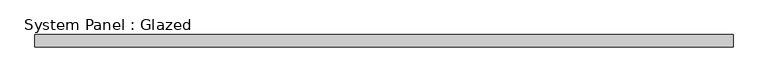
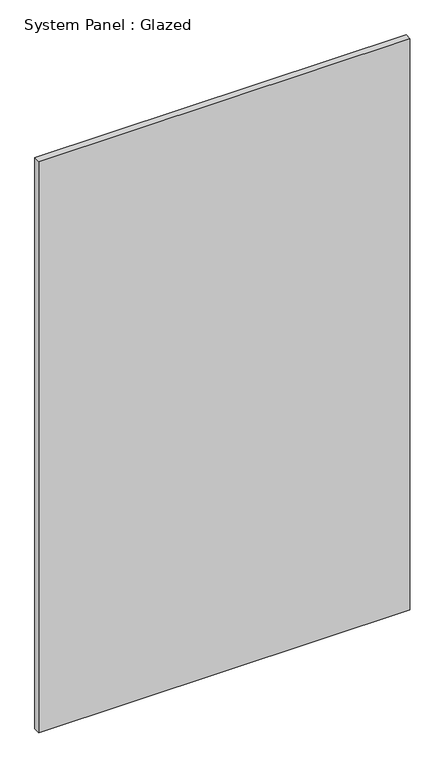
"""IFC4 building model written with IfcOpenShell, lengths in millimetres: plate geometry, System Panel : Glazed."""

from ifc_helpers import new_model, si_unit, origin, origin_with_axes, place, context, project, spatial, polyline, outline, extrude, source, transform, mapped, element, save


def system_panel_glazed_c8329cd5(model_context):
    return source(origin(), model_context, "Body", "SweptSolid", [
        extrude(outline(polyline([(714.463158, 24.5), (-714.463158, 24.5), (-714.463158, 49.5), (714.463158, 49.5), (714.463158, 24.5)])), origin_with_axes(), (0.0, 0.0, 1.0), 2325.0),
    ])


if __name__ == "__main__":
    model = new_model("IFC4")
    model_context = context("Model", 3, world=origin())
    ifc_project = project(units=[si_unit("LENGTHUNIT", "METRE", prefix="MILLI")], contexts=[model_context])
    site = spatial("IfcSite", under=ifc_project)
    building = spatial("IfcBuilding", under=site)
    placement = place(None, origin())
    system_panel_glazed_shape = system_panel_glazed_c8329cd5(model_context)
    element("IfcPlate", 1, ObjectType="System Panel : Glazed", at=placement, inside=building, context=model_context, shape_type="MappedRepresentation", body=[
        mapped(system_panel_glazed_shape, transform((0.0, 0.0, 0.0), x_axis=(1.0, 0.0, 0.0), y_axis=(0.0, 1.0, 0.0), z_axis=(0.0, 0.0, 1.0))),
    ])
    save(model, "model.ifc")
